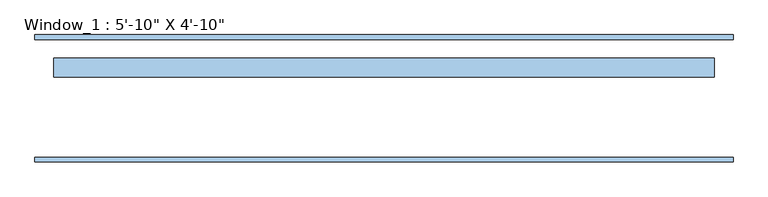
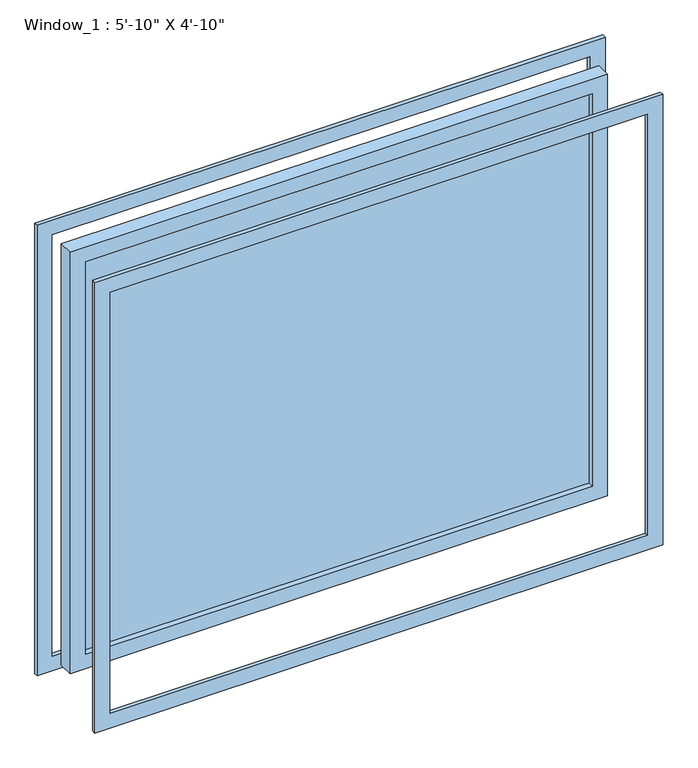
"""IFC4 building model written with IfcOpenShell, lengths in millimetres: window geometry."""

from ifc_helpers import new_model, si_unit, frame, origin, place, context, project, spatial, polyline, outline, extrude, source, transform, mapped, element, save


def window_5e81ba09(model_context):
    return source(origin(), model_context, "Body", "SweptSolid", [
        extrude(outline(polyline([(850.9, 76.2), (-825.5, 76.2), (-825.5, 88.9), (850.9, 88.9), (850.9, 76.2)])), frame((0.0, 0.0, 863.6), z_axis=(0.0, 0.0, 1.0), x_axis=(1.0, 0.0, 0.0)), (0.0, 0.0, 1.0), 1371.6),
        extrude(outline(polyline([(2286.0, -876.3), (812.8, -876.3), (812.8, 901.7), (2286.0, 901.7), (2286.0, -876.3)]), holes=[polyline([(2235.2, -825.5), (2235.2, 850.9), (863.6, 850.9), (863.6, -825.5), (2235.2, -825.5)])]), frame((0.0, 57.15, 0.0), z_axis=(0.0, 1.0, 0.0), x_axis=(0.0, 0.0, 1.0)), (0.0, 0.0, 1.0), 50.8),
        extrude(outline(polyline([(2336.8, -927.1), (762.0, -927.1), (762.0, 952.5), (2336.8, 952.5), (2336.8, -927.1)]), holes=[polyline([(2286.0, -876.3), (2286.0, 901.7), (812.8, 901.7), (812.8, -876.3), (2286.0, -876.3)])]), frame((0.0, 158.75, 0.0), z_axis=(0.0, 1.0, 0.0), x_axis=(0.0, 0.0, 1.0)), (0.0, 0.0, 1.0), 12.7),
        extrude(outline(polyline([(2336.8, -927.1), (762.0, -927.1), (762.0, 952.5), (2336.8, 952.5), (2336.8, -927.1)]), holes=[polyline([(812.8, 901.7), (812.8, -876.3), (2286.0, -876.3), (2286.0, 901.7), (812.8, 901.7)])]), frame((0.0, -171.45, 0.0), z_axis=(0.0, 1.0, 0.0), x_axis=(0.0, 0.0, 1.0)), (0.0, 0.0, 1.0), 12.7),
    ])


if __name__ == "__main__":
    model = new_model("IFC4")
    model_context = context("Model", 3, world=origin())
    ifc_project = project(units=[si_unit("LENGTHUNIT", "METRE", prefix="MILLI")], contexts=[model_context])
    site = spatial("IfcSite", under=ifc_project)
    building = spatial("IfcBuilding", under=site)
    placement = place(None, origin())
    window_shape = window_5e81ba09(model_context)
    element("IfcWindow", 1, ObjectType="Window_1 : 5'-10\" X 4'-10\"", at=placement, inside=building, context=model_context, shape_type="MappedRepresentation", body=[
        mapped(window_shape, transform((0.0, 0.0, 0.0), x_axis=(1.0, 0.0, 0.0), y_axis=(0.0, 1.0, 0.0), z_axis=(0.0, 0.0, 1.0))),
    ])
    save(model, "model.ifc")
